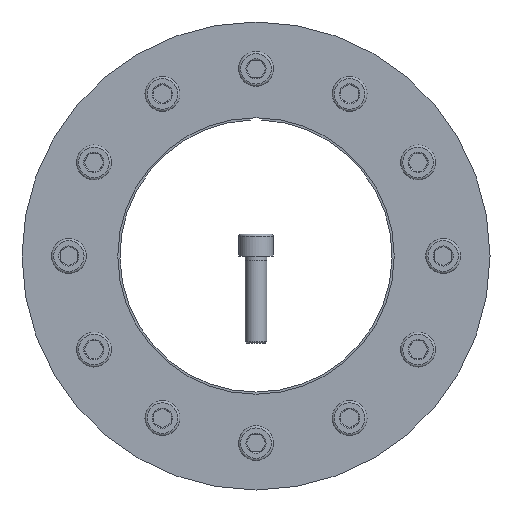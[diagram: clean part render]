
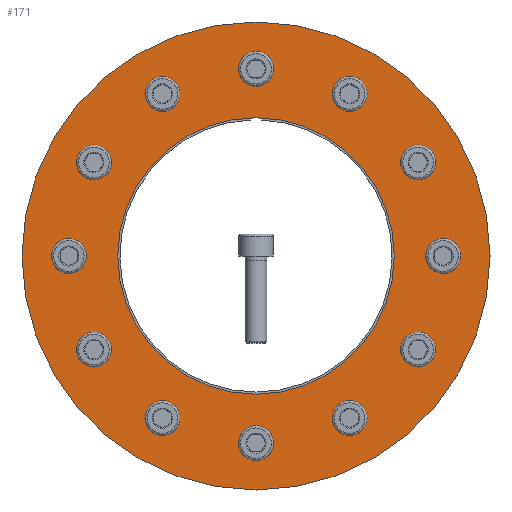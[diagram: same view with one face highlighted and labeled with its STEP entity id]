
A CAD part, front view. The second image highlights one B-rep face of the part: STEP entity #171.
In plain terms, the highlighted planar face has unit normal (0, -1, 0).
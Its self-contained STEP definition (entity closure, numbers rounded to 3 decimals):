
#171 = ADVANCED_FACE( '', ( #406, #407, #408, #409, #410, #411, #412, #413, #414, #415, #416, #417, #418, #419 ), #420, .F. );
#406 = FACE_BOUND( '', #667, .T. );
#407 = FACE_BOUND( '', #668, .T. );
#408 = FACE_BOUND( '', #669, .T. );
#409 = FACE_BOUND( '', #670, .T. );
#410 = FACE_BOUND( '', #671, .T. );
#411 = FACE_BOUND( '', #672, .T. );
#412 = FACE_BOUND( '', #673, .T. );
#413 = FACE_OUTER_BOUND( '', #674, .T. );
#414 = FACE_BOUND( '', #675, .T. );
#415 = FACE_BOUND( '', #676, .T. );
#416 = FACE_BOUND( '', #677, .T. );
#417 = FACE_BOUND( '', #678, .T. );
#418 = FACE_BOUND( '', #679, .T. );
#419 = FACE_BOUND( '', #680, .T. );
#420 = PLANE( '', #681 );
#667 = EDGE_LOOP( '', ( #1094 ) );
#668 = EDGE_LOOP( '', ( #1095 ) );
#669 = EDGE_LOOP( '', ( #1096 ) );
#670 = EDGE_LOOP( '', ( #1097 ) );
#671 = EDGE_LOOP( '', ( #1098 ) );
#672 = EDGE_LOOP( '', ( #1099 ) );
#673 = EDGE_LOOP( '', ( #1100 ) );
#674 = EDGE_LOOP( '', ( #1101 ) );
#675 = EDGE_LOOP( '', ( #1102 ) );
#676 = EDGE_LOOP( '', ( #1103 ) );
#677 = EDGE_LOOP( '', ( #1104 ) );
#678 = EDGE_LOOP( '', ( #1105 ) );
#679 = EDGE_LOOP( '', ( #1106 ) );
#680 = EDGE_LOOP( '', ( #1107 ) );
#681 = AXIS2_PLACEMENT_3D( '', #1108, #1109, #1110 );
#1094 = ORIENTED_EDGE( '', *, *, #1297, .T. );
#1095 = ORIENTED_EDGE( '', *, *, #1300, .T. );
#1096 = ORIENTED_EDGE( '', *, *, #1255, .T. );
#1097 = ORIENTED_EDGE( '', *, *, #1229, .T. );
#1098 = ORIENTED_EDGE( '', *, *, #1278, .T. );
#1099 = ORIENTED_EDGE( '', *, *, #1305, .T. );
#1100 = ORIENTED_EDGE( '', *, *, #1281, .F. );
#1101 = ORIENTED_EDGE( '', *, *, #1210, .T. );
#1102 = ORIENTED_EDGE( '', *, *, #1329, .T. );
#1103 = ORIENTED_EDGE( '', *, *, #1341, .T. );
#1104 = ORIENTED_EDGE( '', *, *, #1232, .T. );
#1105 = ORIENTED_EDGE( '', *, *, #1268, .T. );
#1106 = ORIENTED_EDGE( '', *, *, #1317, .T. );
#1107 = ORIENTED_EDGE( '', *, *, #1332, .T. );
#1108 = CARTESIAN_POINT( '', ( 0., -27., 107.5 ) );
#1109 = DIRECTION( '', ( 0., 1., 0. ) );
#1110 = DIRECTION( '', ( 0., 0., 1. ) );
#1210 = EDGE_CURVE( '', #1416, #1416, #1417, .T. );
#1229 = EDGE_CURVE( '', #1449, #1449, #1450, .T. );
#1232 = EDGE_CURVE( '', #1454, #1454, #1455, .T. );
#1255 = EDGE_CURVE( '', #1491, #1491, #1492, .T. );
#1268 = EDGE_CURVE( '', #1511, #1511, #1512, .T. );
#1278 = EDGE_CURVE( '', #1526, #1526, #1527, .T. );
#1281 = EDGE_CURVE( '', #1530, #1530, #1531, .T. );
#1297 = EDGE_CURVE( '', #1556, #1556, #1557, .T. );
#1300 = EDGE_CURVE( '', #1561, #1561, #1562, .T. );
#1305 = EDGE_CURVE( '', #1569, #1569, #1570, .T. );
#1317 = EDGE_CURVE( '', #1587, #1587, #1588, .T. );
#1329 = EDGE_CURVE( '', #1605, #1605, #1606, .T. );
#1332 = EDGE_CURVE( '', #1609, #1609, #1610, .T. );
#1341 = EDGE_CURVE( '', #1623, #1623, #1624, .T. );
#1416 = VERTEX_POINT( '', #1783 );
#1417 = CIRCLE( '', #1784, 107.5 );
#1449 = VERTEX_POINT( '', #1826 );
#1450 = CIRCLE( '', #1827, 5. );
#1454 = VERTEX_POINT( '', #1831 );
#1455 = CIRCLE( '', #1832, 5. );
#1491 = VERTEX_POINT( '', #1884 );
#1492 = CIRCLE( '', #1885, 5. );
#1511 = VERTEX_POINT( '', #1907 );
#1512 = CIRCLE( '', #1908, 5. );
#1526 = VERTEX_POINT( '', #1923 );
#1527 = CIRCLE( '', #1924, 5. );
#1530 = VERTEX_POINT( '', #1927 );
#1531 = CIRCLE( '', #1928, 63.5 );
#1556 = VERTEX_POINT( '', #1954 );
#1557 = CIRCLE( '', #1955, 5. );
#1561 = VERTEX_POINT( '', #1959 );
#1562 = CIRCLE( '', #1960, 5. );
#1569 = VERTEX_POINT( '', #1967 );
#1570 = CIRCLE( '', #1968, 5. );
#1587 = VERTEX_POINT( '', #1989 );
#1588 = CIRCLE( '', #1990, 5. );
#1605 = VERTEX_POINT( '', #2008 );
#1606 = CIRCLE( '', #2009, 5. );
#1609 = VERTEX_POINT( '', #2012 );
#1610 = CIRCLE( '', #2013, 5. );
#1623 = VERTEX_POINT( '', #2026 );
#1624 = CIRCLE( '', #2027, 5. );
#1783 = CARTESIAN_POINT( '', ( 0., -27., -107.5 ) );
#1784 = AXIS2_PLACEMENT_3D( '', #2077, #2078, #2079 );
#1826 = CARTESIAN_POINT( '', ( 71.978, -27., -47.33 ) );
#1827 = AXIS2_PLACEMENT_3D( '', #2105, #2106, #2107 );
#1831 = CARTESIAN_POINT( '', ( 38.67, -27., -76.978 ) );
#1832 = AXIS2_PLACEMENT_3D( '', #2111, #2112, #2113 );
#1884 = CARTESIAN_POINT( '', ( -5., -27., -86. ) );
#1885 = AXIS2_PLACEMENT_3D( '', #2139, #2140, #2141 );
#1907 = CARTESIAN_POINT( '', ( -47.33, -27., -71.978 ) );
#1908 = AXIS2_PLACEMENT_3D( '', #2160, #2161, #2162 );
#1923 = CARTESIAN_POINT( '', ( 76.978, -27., 38.67 ) );
#1924 = AXIS2_PLACEMENT_3D( '', #2179, #2180, #2181 );
#1927 = CARTESIAN_POINT( '', ( 0., -27., -63.5 ) );
#1928 = AXIS2_PLACEMENT_3D( '', #2185, #2186, #2187 );
#1954 = CARTESIAN_POINT( '', ( -71.978, -27., 47.33 ) );
#1955 = AXIS2_PLACEMENT_3D( '', #2219, #2220, #2221 );
#1959 = CARTESIAN_POINT( '', ( -76.978, -27., -38.67 ) );
#1960 = AXIS2_PLACEMENT_3D( '', #2225, #2226, #2227 );
#1967 = CARTESIAN_POINT( '', ( 5., -27., 86. ) );
#1968 = AXIS2_PLACEMENT_3D( '', #2234, #2235, #2236 );
#1989 = CARTESIAN_POINT( '', ( -86., -27., 5. ) );
#1990 = AXIS2_PLACEMENT_3D( '', #2250, #2251, #2252 );
#2008 = CARTESIAN_POINT( '', ( 47.33, -27., 71.978 ) );
#2009 = AXIS2_PLACEMENT_3D( '', #2272, #2273, #2274 );
#2012 = CARTESIAN_POINT( '', ( -38.67, -27., 76.978 ) );
#2013 = AXIS2_PLACEMENT_3D( '', #2275, #2276, #2277 );
#2026 = CARTESIAN_POINT( '', ( 86., -27., -5. ) );
#2027 = AXIS2_PLACEMENT_3D( '', #2290, #2291, #2292 );
#2077 = CARTESIAN_POINT( '', ( 0., -27., 0. ) );
#2078 = DIRECTION( '', ( 0., -1., 0. ) );
#2079 = DIRECTION( '', ( 0., 0., -1. ) );
#2105 = CARTESIAN_POINT( '', ( 74.478, -27., -43. ) );
#2106 = DIRECTION( '', ( 0., 1., 0. ) );
#2107 = DIRECTION( '', ( -0.5, 0., -0.866 ) );
#2111 = CARTESIAN_POINT( '', ( 43., -27., -74.478 ) );
#2112 = DIRECTION( '', ( 0., 1., 0. ) );
#2113 = DIRECTION( '', ( -0.866, 0., -0.5 ) );
#2139 = CARTESIAN_POINT( '', ( 0., -27., -86. ) );
#2140 = DIRECTION( '', ( 0., 1., 0. ) );
#2141 = DIRECTION( '', ( -1., 0., 0. ) );
#2160 = CARTESIAN_POINT( '', ( -43., -27., -74.478 ) );
#2161 = DIRECTION( '', ( 0., 1., 0. ) );
#2162 = DIRECTION( '', ( -0.866, 0., 0.5 ) );
#2179 = CARTESIAN_POINT( '', ( 74.478, -27., 43. ) );
#2180 = DIRECTION( '', ( 0., 1., 0. ) );
#2181 = DIRECTION( '', ( 0.5, 0., -0.866 ) );
#2185 = CARTESIAN_POINT( '', ( 0., -27., 0. ) );
#2186 = DIRECTION( '', ( 0., -1., 0. ) );
#2187 = DIRECTION( '', ( 0., 0., -1. ) );
#2219 = CARTESIAN_POINT( '', ( -74.478, -27., 43. ) );
#2220 = DIRECTION( '', ( 0., 1., 0. ) );
#2221 = DIRECTION( '', ( 0.5, 0., 0.866 ) );
#2225 = CARTESIAN_POINT( '', ( -74.478, -27., -43. ) );
#2226 = DIRECTION( '', ( 0., 1., 0. ) );
#2227 = DIRECTION( '', ( -0.5, 0., 0.866 ) );
#2234 = CARTESIAN_POINT( '', ( 0., -27., 86. ) );
#2235 = DIRECTION( '', ( 0., 1., 0. ) );
#2236 = DIRECTION( '', ( 1., 0., 0. ) );
#2250 = CARTESIAN_POINT( '', ( -86., -27., 0. ) );
#2251 = DIRECTION( '', ( 0., 1., 0. ) );
#2252 = DIRECTION( '', ( 0., 0., 1. ) );
#2272 = CARTESIAN_POINT( '', ( 43., -27., 74.478 ) );
#2273 = DIRECTION( '', ( 0., 1., 0. ) );
#2274 = DIRECTION( '', ( 0.866, 0., -0.5 ) );
#2275 = CARTESIAN_POINT( '', ( -43., -27., 74.478 ) );
#2276 = DIRECTION( '', ( 0., 1., 0. ) );
#2277 = DIRECTION( '', ( 0.866, 0., 0.5 ) );
#2290 = CARTESIAN_POINT( '', ( 86., -27., 0. ) );
#2291 = DIRECTION( '', ( 0., 1., 0. ) );
#2292 = DIRECTION( '', ( 0., 0., -1. ) );
